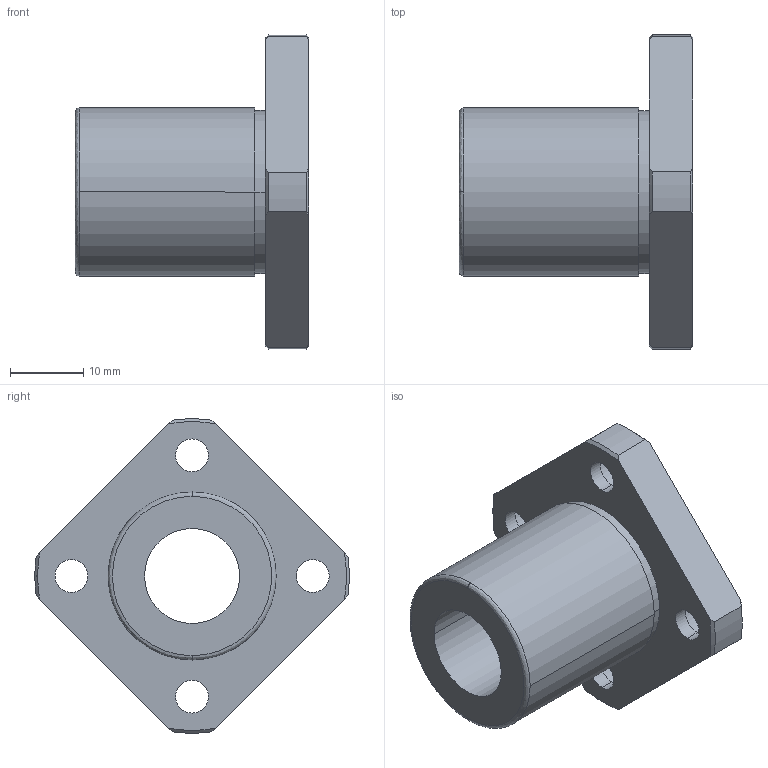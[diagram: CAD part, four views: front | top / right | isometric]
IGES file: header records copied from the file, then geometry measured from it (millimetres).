
Start section: 3D InterOp IGES (Version 21 0 1), Spatial Corp. Copyright (c) 1999-2007.
Global section: file name: NF-13TVUU.igs; native system: Spatial Corp.; preprocessor: 3D InterOp GENERIC/IGES 3.0; author: Noname; organization: Noname; date: 20220308.154232; units: millimetre
Bounding box: 32 x 42.98 x 42.96 mm (x, y, z)
Surface area: 6324.5 mm2 (no closed solid volume)
Topology: 0 solids, 0 shells, 51 faces, 256 edges, 256 vertices
Faces by surface type: revolution 39, extrusion 12
